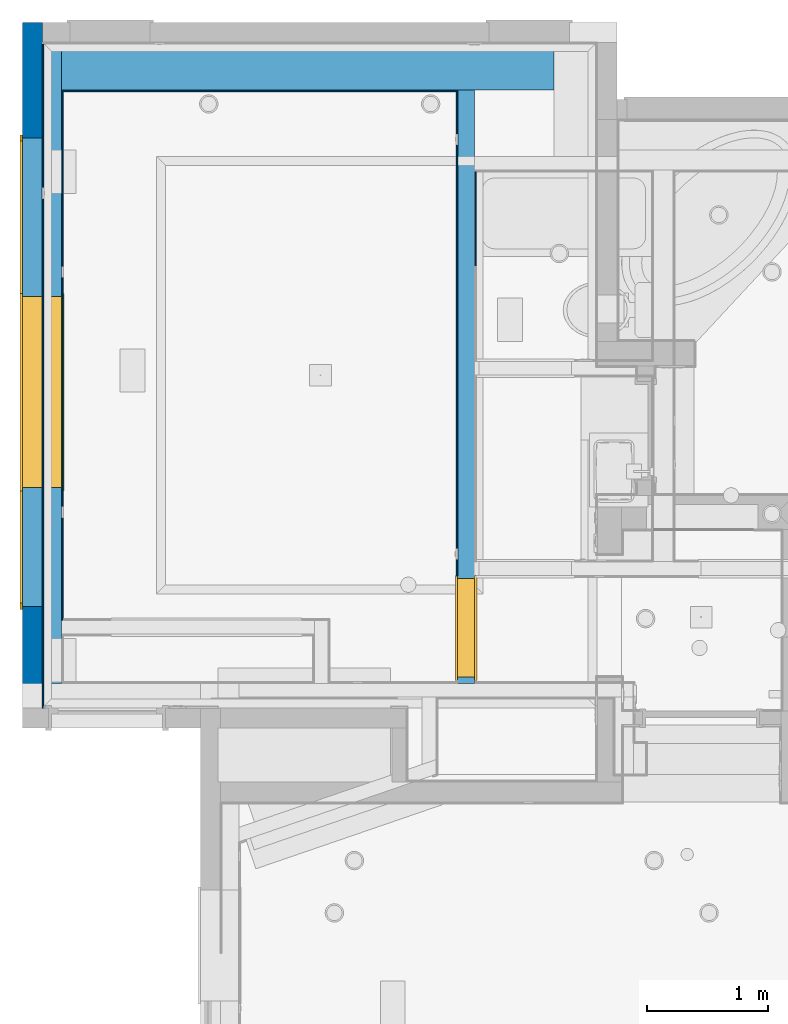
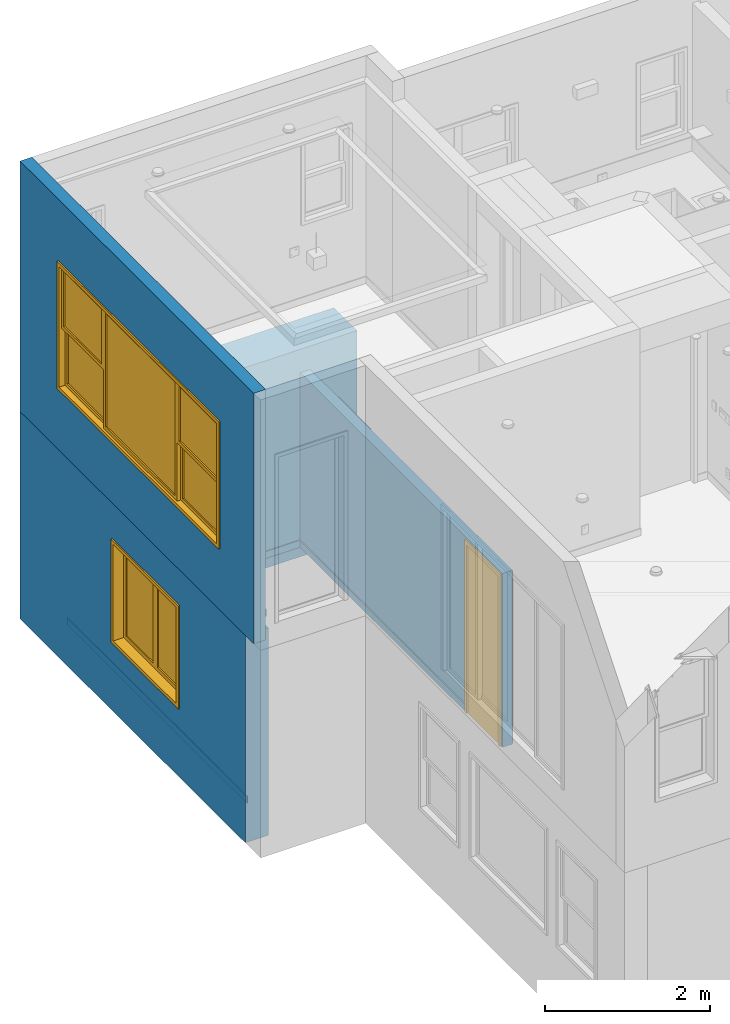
# One storey, part 9 of 60: 9 walls, 2 windows, 1 door, 3 openings.
"""IFC2X3 building model written with IfcOpenShell, lengths in feet."""

from ifc_helpers import new_model, entity, si_unit, converted_unit, direction, frame, frame_2d, origin, origin_2d_with_axis, place, context, subcontext, project, spatial, polyline, rectangle, outline, extrude, clip, bounded_halfspace, source, transform, mapped, material, material_list, layer, layer_set, layer_usage, type_object, type_shapes, element, fill, save


model = new_model("IFC2X3")

# Units and contexts
model_context = context("Model", 3, precision=0.0001, world=origin(), true_north=direction((6.123031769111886e-17, 1.0)))
plan_context = context("Plan", 3, precision=0.0001, world=origin(), true_north=direction((6.123031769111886e-17, 1.0)))
body_context = subcontext(model_context, "Body", "Model", "MODEL_VIEW")
ifc_project = project(units=[converted_unit("LENGTHUNIT", "FOOT", entity("IfcLengthMeasure", 0.3048), si_unit("LENGTHUNIT", "METRE"), dimensions=[1, 0, 0, 0, 0, 0, 0]), converted_unit("AREAUNIT", "SQUARE FOOT", entity("IfcAreaMeasure", 0.09290304), si_unit("AREAUNIT", "SQUARE_METRE"), dimensions=[2, 0, 0, 0, 0, 0, 0]), converted_unit("PLANEANGLEUNIT", "DEGREE", entity("IfcPlaneAngleMeasure", 0.017453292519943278), si_unit("PLANEANGLEUNIT", "RADIAN"), dimensions=[0, 0, 0, 0, 0, 0, 0])], contexts=[model_context, plan_context])

# Site, building, storey
site_placement = place(None, origin())
site = spatial("IfcSite", under=ifc_project, at=site_placement, Name="Default", CompositionType="ELEMENT")
building_placement = place(site_placement, origin())
building = spatial("IfcBuilding", under=site, at=building_placement, CompositionType="ELEMENT")
storey_placement = place(building_placement, origin())
storey = spatial("IfcBuildingStorey", under=building, at=storey_placement, Name="First floor", CompositionType="ELEMENT", Elevation=0.0)

# Wall, opening, window
ifc_material_1 = material(Name="Default New Material")
ifc_layer_1 = layer(ifc_material_1, 0.5416666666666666)
ifc_layer_set_1 = layer_set([ifc_layer_1], Name="Basic Wall:Wall_6.5\"")
ifc_layer_usage_1 = layer_usage(ifc_layer_set_1, "AXIS2", "NEGATIVE", 0.2708333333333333)
wall_type_1 = type_object("IfcWallType", Name="Basic Wall:Wall_6.5\"", PredefinedType="STANDARD", material=ifc_layer_set_1)
wall_1_placement = place(storey_placement, frame((-21.58333333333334, 31.58333333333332, 9.541666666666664), z_axis=(0.0, 0.0, 1.0), x_axis=(0.0, 1.0, 0.0)))
wall_1 = element("IfcWallStandardCase", 1, at=wall_1_placement, inside=storey, type_object=wall_type_1, material=ifc_layer_usage_1, Name="Basic Wall:Wall_6.5\"", ObjectType="Basic Wall:Wall_6.5\"", context=body_context, shape_type="SweptSolid", body=[
    extrude(rectangle(XDim=18.541666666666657, YDim=0.5416666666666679, at=frame_2d((9.27083333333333, -1.3600232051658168e-15), x_axis=(-1.0, 0.0))), origin(), (0.0, 0.0, 1.0), 12.125),
])
opening_1_placement = place(wall_1_placement, frame((15.416666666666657, 0.2708333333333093, 3.0624999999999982)))
opening_1 = element("IfcOpeningElement", 2, at=opening_1_placement, cuts=wall_1, Name="C_Atypical Window 6:12'-6\" X 5'-10\":1", ObjectType="Opening", context=body_context, shape_type="SweptSolid", body=[
    extrude(rectangle(XDim=12.666666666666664, YDim=6.000000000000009, at=frame_2d((3.0000000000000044, 6.333333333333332), x_axis=(0.0, 1.0))), frame((0.0, 0.0, 0.0), z_axis=(0.0, -1.0, 0.0), x_axis=(0.0, 0.0, 1.0)), (0.0, 0.0, 1.0), 0.5416666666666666),
])
ifc_material_2 = material(Name="Glass")
ifc_material_list = material_list([ifc_material_1, ifc_material_2])
window_style_1 = type_object("IfcWindowStyle", Name="C_Atypical Window 6:12'-6\" X 5'-10\"", ConstructionType="NOTDEFINED", OperationType="NOTDEFINED", ParameterTakesPrecedence=False, Sizeable=False, material=ifc_material_list)
shared_shape_1 = source(origin(), body_context, "Body", "SweptSolid", [
    extrude(outline(polyline([(-1.666666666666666, -1.5), (1.666666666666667, -1.5), (1.666666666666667, 1.5), (-1.666666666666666, 1.5), (-1.666666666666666, -1.5)]), holes=[polyline([(-1.5000000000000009, -1.3333333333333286), (-1.5000000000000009, 1.3333333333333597), (1.4999999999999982, 1.3333333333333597), (1.4999999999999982, -1.3333333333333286), (-1.5000000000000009, -1.3333333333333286)])]), frame((1.7500000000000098, 0.5, 4.416666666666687), z_axis=(0.0, -1.0, 0.0), x_axis=(-1.0, 0.0, 0.0)), (0.0, 0.0, 1.0), 0.1666666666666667),
    extrude(rectangle(XDim=2.9999999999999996, YDim=0.041666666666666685, at=frame_2d((-4.440892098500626e-16, 0.0), x_axis=(1.0, 0.0))), frame((1.7500000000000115, 0.41666666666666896, 4.8402777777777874)), (0.0, 0.0, 1.0), 0.04166666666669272),
    extrude(rectangle(XDim=2.999999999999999, YDim=0.041666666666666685, at=frame_2d((-4.440892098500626e-16, 0.0), x_axis=(1.0, 0.0))), frame((1.7500000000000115, 0.41666666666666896, 3.95138888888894)), (0.0, 0.0, 1.0), 0.04166666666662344),
    extrude(rectangle(XDim=0.041666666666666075, YDim=0.041666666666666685, at=origin_2d_with_axis()), frame((2.2500000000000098, 0.41666666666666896, 3.0833333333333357)), (0.0, 0.0, 1.0), 2.666666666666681),
    extrude(rectangle(XDim=0.04166666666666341, YDim=0.041666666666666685, at=frame_2d((-4.440892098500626e-16, 0.0), x_axis=(1.0, 0.0))), frame((1.2500000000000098, 0.41666666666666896, 3.0833333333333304)), (0.0, 0.0, 1.0), 2.6666666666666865),
    extrude(rectangle(XDim=2.9999999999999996, YDim=0.041666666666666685, at=frame_2d((-4.440892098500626e-16, 0.0), x_axis=(1.0, 0.0))), frame((1.7500000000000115, 0.41666666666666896, 3.083333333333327)), (0.0, 0.0, 1.0), 2.666666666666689),
    extrude(rectangle(XDim=0.04166666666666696, YDim=0.04166666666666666, at=frame_2d((-4.440892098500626e-16, 0.0), x_axis=(1.0, 0.0))), frame((2.2500000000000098, 0.2500000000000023, 0.25000000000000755)), (0.0, 0.0, 1.0), 2.666666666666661),
    extrude(rectangle(XDim=0.041666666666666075, YDim=0.04166666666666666, at=origin_2d_with_axis()), frame((1.2500000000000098, 0.2500000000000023, 0.25000000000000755)), (0.0, 0.0, 1.0), 2.666666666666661),
    extrude(rectangle(XDim=2.9999999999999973, YDim=0.04166666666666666, at=frame_2d((4.440892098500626e-16, 0.0), x_axis=(1.0, 0.0))), frame((1.7500000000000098, 0.25, 0.25000000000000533)), (0.0, 0.0, 1.0), 2.6666666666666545),
    extrude(outline(polyline([(-1.5000000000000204, -1.666666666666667), (1.5000000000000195, -1.666666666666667), (1.5000000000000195, 1.666666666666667), (-1.5000000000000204, 1.666666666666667), (-1.5000000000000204, -1.666666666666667)]), holes=[polyline([(-1.3333333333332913, 1.5), (1.3333333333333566, 1.4999999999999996), (1.3333333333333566, -1.5000000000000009), (-1.3333333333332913, -1.5), (-1.3333333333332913, 1.5)])]), frame((1.7500000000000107, 0.33333333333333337, 1.5833333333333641), z_axis=(0.0, -1.0, 0.0), x_axis=(0.0, 0.0, -1.0)), (0.0, 0.0, 1.0), 0.16666666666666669),
    extrude(rectangle(XDim=2.999999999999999, YDim=0.04166666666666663, at=frame_2d((4.440892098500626e-16, 0.0), x_axis=(1.0, 0.0))), frame((1.7500000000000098, 0.25, 2.006944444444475)), (0.0, 0.0, 1.0), 0.04166666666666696),
    extrude(rectangle(XDim=3.0, YDim=0.04166666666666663, at=origin_2d_with_axis()), frame((1.7500000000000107, 0.25, 1.1180555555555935)), (0.0, 0.0, 1.0), 0.041666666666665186),
    extrude(outline(polyline([(-1.666666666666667, -1.5), (1.666666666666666, -1.5), (1.666666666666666, 1.5), (-1.666666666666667, 1.5), (-1.666666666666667, -1.5)]), holes=[polyline([(-1.5000000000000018, -1.3333333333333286), (-1.5000000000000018, 1.3333333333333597), (1.4999999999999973, 1.3333333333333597), (1.4999999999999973, -1.3333333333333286), (-1.5000000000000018, -1.3333333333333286)])]), frame((10.916666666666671, 0.5, 4.416666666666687), z_axis=(0.0, -1.0, 0.0), x_axis=(-1.0, 0.0, 0.0)), (0.0, 0.0, 1.0), 0.1666666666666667),
    extrude(rectangle(XDim=2.999999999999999, YDim=0.041666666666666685, at=frame_2d((4.440892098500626e-16, 0.0), x_axis=(1.0, 0.0))), frame((10.916666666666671, 0.41666666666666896, 4.8402777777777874)), (0.0, 0.0, 1.0), 0.04166666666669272),
    extrude(rectangle(XDim=2.999999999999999, YDim=0.041666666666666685, at=frame_2d((4.440892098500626e-16, 0.0), x_axis=(1.0, 0.0))), frame((10.916666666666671, 0.41666666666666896, 3.95138888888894)), (0.0, 0.0, 1.0), 0.04166666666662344),
    extrude(rectangle(XDim=0.041666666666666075, YDim=0.041666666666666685, at=frame_2d((8.881784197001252e-16, 0.0), x_axis=(1.0, 0.0))), frame((11.416666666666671, 0.41666666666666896, 3.0833333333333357)), (0.0, 0.0, 1.0), 2.666666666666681),
    extrude(rectangle(XDim=0.04166666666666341, YDim=0.041666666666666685, at=frame_2d((4.440892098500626e-16, 0.0), x_axis=(1.0, 0.0))), frame((10.416666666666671, 0.41666666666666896, 3.0833333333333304)), (0.0, 0.0, 1.0), 2.6666666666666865),
    extrude(rectangle(XDim=2.999999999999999, YDim=0.041666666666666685, at=frame_2d((4.440892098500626e-16, 0.0), x_axis=(1.0, 0.0))), frame((10.916666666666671, 0.41666666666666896, 3.083333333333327)), (0.0, 0.0, 1.0), 2.666666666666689),
    extrude(rectangle(XDim=0.04166666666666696, YDim=0.04166666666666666, at=frame_2d((4.440892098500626e-16, 0.0), x_axis=(1.0, 0.0))), frame((11.416666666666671, 0.2500000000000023, 0.25000000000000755)), (0.0, 0.0, 1.0), 2.666666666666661),
    extrude(rectangle(XDim=0.041666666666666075, YDim=0.04166666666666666, at=frame_2d((-4.440892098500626e-16, 0.0), x_axis=(1.0, 0.0))), frame((10.416666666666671, 0.2500000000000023, 0.25000000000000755)), (0.0, 0.0, 1.0), 2.666666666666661),
    extrude(rectangle(XDim=2.9999999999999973, YDim=0.04166666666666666, at=frame_2d((-4.440892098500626e-16, 0.0), x_axis=(1.0, 0.0))), frame((10.916666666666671, 0.25, 0.25000000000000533)), (0.0, 0.0, 1.0), 2.6666666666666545),
    extrude(outline(polyline([(-1.5000000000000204, -1.666666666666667), (1.5000000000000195, -1.666666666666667), (1.5000000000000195, 1.666666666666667), (-1.5000000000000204, 1.666666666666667), (-1.5000000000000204, -1.666666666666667)]), holes=[polyline([(-1.3333333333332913, 1.5), (1.3333333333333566, 1.5), (1.3333333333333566, -1.5000000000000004), (-1.3333333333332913, -1.5), (-1.3333333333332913, 1.5)])]), frame((10.916666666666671, 0.33333333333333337, 1.5833333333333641), z_axis=(0.0, -1.0, 0.0), x_axis=(0.0, 0.0, -1.0)), (0.0, 0.0, 1.0), 0.16666666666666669),
    extrude(rectangle(XDim=2.999999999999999, YDim=0.04166666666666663, at=frame_2d((-4.440892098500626e-16, 0.0), x_axis=(1.0, 0.0))), frame((10.916666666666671, 0.25, 2.006944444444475)), (0.0, 0.0, 1.0), 0.04166666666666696),
    extrude(rectangle(XDim=3.0, YDim=0.04166666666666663, at=origin_2d_with_axis()), frame((10.916666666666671, 0.25, 1.1180555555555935)), (0.0, 0.0, 1.0), 0.041666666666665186),
    extrude(rectangle(XDim=0.04166666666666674, YDim=0.04166666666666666, at=frame_2d((1.1102230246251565e-16, -1.3877787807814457e-17), x_axis=(1.0, 0.0))), frame((5.416666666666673, 0.41666666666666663, 0.25000000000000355)), (0.0, 0.0, 1.0), 5.500000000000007),
    extrude(rectangle(XDim=0.04166666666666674, YDim=0.04166666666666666, at=frame_2d((1.1102230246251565e-16, -1.3877787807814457e-17), x_axis=(1.0, 0.0))), frame((7.250000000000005, 0.41666666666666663, 0.25000000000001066)), (0.0, 0.0, 1.0), 5.500000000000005),
    extrude(outline(polyline([(-2.916666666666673, -2.9166666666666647), (2.9166666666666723, -2.9166666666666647), (2.9166666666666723, 2.9166666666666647), (-2.916666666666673, 2.9166666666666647), (-2.916666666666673, -2.9166666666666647)]), holes=[polyline([(-2.750000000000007, 2.749999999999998), (2.7500000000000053, 2.749999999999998), (2.7500000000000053, -2.7499999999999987), (-2.750000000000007, -2.7499999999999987), (-2.750000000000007, 2.749999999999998)])]), frame((6.333333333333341, 0.5, 3.0), z_axis=(0.0, -1.0, 0.0), x_axis=(0.0, 0.0, -1.0)), (0.0, 0.0, 1.0), 0.1666666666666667),
    extrude(rectangle(XDim=5.4999999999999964, YDim=0.04166666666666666, at=frame_2d((0.0, -1.3877787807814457e-17), x_axis=(1.0, 0.0))), frame((6.33333333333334, 0.41666666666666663, 0.2500000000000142)), (0.0, 0.0, 1.0), 5.500000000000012),
    extrude(rectangle(XDim=5.4999999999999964, YDim=0.04166666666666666, at=frame_2d((0.0, -1.3877787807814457e-17), x_axis=(1.0, 0.0))), frame((6.33333333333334, 0.41666666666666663, 2.0625000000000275)), (0.0, 0.0, 1.0), 0.041666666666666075),
    extrude(rectangle(XDim=5.4999999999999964, YDim=0.04166666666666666, at=frame_2d((0.0, -1.3877787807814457e-17), x_axis=(1.0, 0.0))), frame((6.33333333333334, 0.41666666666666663, 3.8958333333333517)), (0.0, 0.0, 1.0), 0.041666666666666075),
    extrude(outline(polyline([(-6.416666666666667, -3.083333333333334), (6.416666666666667, -3.083333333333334), (6.416666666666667, 3.083333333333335), (-6.416666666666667, 3.083333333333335), (-6.416666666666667, -3.083333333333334)]), holes=[polyline([(-6.250000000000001, -2.9166666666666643), (-6.250000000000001, 2.916666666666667), (6.249999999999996, 2.916666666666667), (6.249999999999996, -2.9166666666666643), (-6.250000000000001, -2.9166666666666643)])]), frame((6.3333333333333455, 0.0, 3.0), z_axis=(0.0, -1.0, 0.0), x_axis=(-1.0, 0.0, 0.0)), (0.0, 0.0, 1.0), 0.0625),
    extrude(outline(polyline([(-6.416666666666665, -3.083333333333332), (6.416666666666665, -3.083333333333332), (6.416666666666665, 3.083333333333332), (-6.416666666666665, 3.083333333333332), (-6.416666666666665, -3.083333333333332)]), holes=[polyline([(-6.250000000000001, -2.916666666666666), (-6.250000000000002, 2.916666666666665), (6.249999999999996, 2.916666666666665), (6.249999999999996, -2.916666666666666), (-6.250000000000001, -2.916666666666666)])]), frame((6.333333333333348, 0.6041666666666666, 3.0), z_axis=(0.0, -1.0, 0.0), x_axis=(-1.0, 0.0, 0.0)), (0.0, 0.0, 1.0), 0.0625),
    extrude(outline(polyline([(-3.0, -6.3333333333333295), (3.0, -6.3333333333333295), (3.0, 6.333333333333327), (-3.0, 6.333333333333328), (-3.0, -6.3333333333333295)]), holes=[polyline([(-2.9166666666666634, 6.249999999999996), (2.9166666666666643, 6.249999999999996), (2.916666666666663, -6.249999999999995), (-2.9166666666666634, -6.249999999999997), (-2.9166666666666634, 6.249999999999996)])]), frame((6.333333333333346, 0.5416666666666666, 3.0), z_axis=(0.0, -1.0, 0.0), x_axis=(0.0, 0.0, -1.0)), (0.0, 0.0, 1.0), 0.5416666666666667),
])
type_shapes(window_style_1, [shared_shape_1])
window_1_placement = place(opening_1_placement, frame((-12.666666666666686, -0.5416666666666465, 0.0)))
window_1 = element("IfcWindow", 3, at=window_1_placement, inside=storey, type_object=window_style_1, material=ifc_material_list, Name="C_Atypical Window 6:12'-6\" X 5'-10\"", ObjectType="C_Atypical Window 6:12'-6\" X 5'-10\"", OverallHeight=6.000000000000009, OverallWidth=12.666666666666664, context=body_context, shape_type="MappedRepresentation", body=[
    mapped(shared_shape_1, transform((0.0, 0.0, 0.0), scale=1.0)),
])
fill(opening_1, window_1)

# Wall, opening, door
ifc_layer_2 = layer(ifc_material_1, 0.45833333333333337)
ifc_layer_set_2 = layer_set([ifc_layer_2], Name="Basic Wall:Wall_5.5\"")
ifc_layer_usage_2 = layer_usage(ifc_layer_set_2, "AXIS2", "NEGATIVE", 0.22916666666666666)
wall_type_2 = type_object("IfcWallType", Name="Basic Wall:Wall_5.5\"", PredefinedType="STANDARD", material=ifc_layer_set_2)
wall_2_placement = place(storey_placement, frame((-9.8541666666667, 48.29166666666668, 0.0), z_axis=(0.0, 0.0, 1.0), x_axis=(0.0, -1.0, 0.0)))
wall_2 = element("IfcWallStandardCase", 4, at=wall_2_placement, inside=storey, type_object=wall_type_2, material=ifc_layer_usage_2, Name="Basic Wall:Wall_5.5\"", ObjectType="Basic Wall:Wall_5.5\"", context=body_context, shape_type="SweptSolid", body=[
    extrude(rectangle(XDim=16.04166666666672, YDim=0.4583333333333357, at=frame_2d((8.02083333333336, -1.8735013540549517e-15), x_axis=(1.0, 0.0))), origin(), (0.0, 0.0, 1.0), 8.416666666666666),
])
opening_2_placement = place(wall_2_placement, frame((15.875000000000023, 0.22916666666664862, 0.0)))
opening_2 = element("IfcOpeningElement", 5, at=opening_2_placement, cuts=wall_2, Name="C_Single Door:2'-6\" X 8'-2\":1", ObjectType="Opening", context=body_context, shape_type="SweptSolid", body=[
    extrude(rectangle(XDim=2.666666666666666, YDim=8.25, at=frame_2d((4.125, 1.333333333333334), x_axis=(0.0, 1.0))), frame((0.0, 0.0, 0.0), z_axis=(0.0, -1.0, 0.0), x_axis=(0.0, 0.0, 1.0)), (0.0, 0.0, 1.0), 0.4583333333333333),
])
door_style = type_object("IfcDoorStyle", Name="C_Single Door:2'-6\" X 8'-2\"", ConstructionType="NOTDEFINED", OperationType="SINGLE_SWING_RIGHT", ParameterTakesPrecedence=False, Sizeable=False, material=ifc_material_1)
shared_shape_2 = source(origin(), body_context, "Body", "SweptSolid", [
    extrude(rectangle(XDim=2.499999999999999, YDim=0.16666666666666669, at=origin_2d_with_axis()), frame((1.3333333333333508, 0.08333333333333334, 0.0)), (0.0, 0.0, 1.0), 8.166666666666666),
    extrude(outline(polyline([(-4.041666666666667, 1.2499999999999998), (4.125000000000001, 1.2499999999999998), (4.125000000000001, 1.4166666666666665), (-4.208333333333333, 1.4166666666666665), (-4.208333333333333, -1.4166666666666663), (4.124999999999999, -1.4166666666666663), (4.124999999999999, -1.2499999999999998), (-4.041666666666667, -1.2499999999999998), (-4.041666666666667, 1.2499999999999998)])), frame((1.33333333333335, 0.0, 4.124999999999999), z_axis=(0.0, -1.0, 0.0), x_axis=(0.0, 0.0, -1.0)), (0.0, 0.0, 1.0), 0.06249999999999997),
    extrude(outline(polyline([(-4.041666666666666, 1.2499999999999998), (4.125, 1.2499999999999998), (4.125, 1.4166666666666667), (-4.208333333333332, 1.4166666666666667), (-4.208333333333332, -1.4166666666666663), (4.125, -1.4166666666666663), (4.125, -1.2500000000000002), (-4.041666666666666, -1.2500000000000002), (-4.041666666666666, 1.2499999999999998)])), frame((1.3333333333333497, 0.5208333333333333, 4.125), z_axis=(0.0, -1.0, 0.0), x_axis=(0.0, 0.0, -1.0)), (0.0, 0.0, 1.0), 0.06249999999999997),
    extrude(outline(polyline([(1.2499999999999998, -4.104166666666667), (1.3333333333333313, -4.104166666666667), (1.3333333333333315, 4.145833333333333), (-1.3333333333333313, 4.145833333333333), (-1.3333333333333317, -4.104166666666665), (-1.25, -4.104166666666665), (-1.2499999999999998, 4.062500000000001), (1.2499999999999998, 4.062500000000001), (1.2499999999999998, -4.104166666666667)])), frame((1.33333333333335, 0.45833333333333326, 4.104166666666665), z_axis=(0.0, -1.0, 0.0), x_axis=(1.0, 0.0, 0.0)), (0.0, 0.0, 1.0), 0.45833333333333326),
])
type_shapes(door_style, [shared_shape_2])
door_placement = place(opening_2_placement, frame((-2.6666666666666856, -0.4583333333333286, 0.0)))
door = element("IfcDoor", 6, at=door_placement, inside=storey, type_object=door_style, material=ifc_material_1, Name="C_Single Door:2'-6\" X 8'-2\"", ObjectType="C_Single Door:2'-6\" X 8'-2\"", OverallHeight=8.25, OverallWidth=2.6666666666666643, context=body_context, shape_type="MappedRepresentation", body=[
    mapped(shared_shape_2, transform((0.0, 0.0, 0.0), scale=1.0)),
])
fill(opening_2, door)

# Wall, opening, window
ifc_layer_3 = layer(ifc_material_1, 1.0625)
ifc_layer_set_3 = layer_set([ifc_layer_3], Name="Basic Wall:Wall_1' 3/4\"")
ifc_layer_usage_3 = layer_usage(ifc_layer_set_3, "AXIS2", "NEGATIVE", 0.53125)
wall_type_3 = type_object("IfcWallType", Name="Basic Wall:Wall_1' 3/4\"", PredefinedType="STANDARD", material=ifc_layer_set_3)
wall_3_placement = place(storey_placement, frame((-21.322916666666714, 32.24999999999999, -0.5), z_axis=(0.0, 0.0, 1.0), x_axis=(0.0, 1.0, 0.0)))
wall_3 = element("IfcWallStandardCase", 7, at=wall_3_placement, inside=storey, type_object=wall_type_3, material=ifc_layer_usage_3, Name="Basic Wall:Wall_1' 3/4\"", ObjectType="Basic Wall:Wall_1' 3/4\"", context=body_context, shape_type="SweptSolid", body=[
    extrude(rectangle(XDim=17.87500000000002, YDim=1.0625, at=frame_2d((8.93750000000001, -1.6653345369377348e-16), x_axis=(-1.0, 0.0))), origin(), (0.0, 0.0, 1.0), 10.041666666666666),
])
opening_3_placement = place(wall_3_placement, frame((10.458333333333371, 0.5312499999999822, 3.4166666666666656)))
opening_3 = element("IfcOpeningElement", 8, at=opening_3_placement, cuts=wall_3, Name="C_Double Window:5'-0\" X 4'-8\":1", ObjectType="Opening", context=body_context, shape_type="SweptSolid", body=[
    extrude(rectangle(XDim=5.166666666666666, YDim=4.833333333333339, at=frame_2d((2.4166666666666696, 2.5833333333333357), x_axis=(0.0, 1.0))), frame((0.0, 0.0, 0.0), z_axis=(0.0, -1.0, 0.0), x_axis=(0.0, 0.0, 1.0)), (0.0, 0.0, 1.0), 1.0625),
])
window_style_2 = type_object("IfcWindowStyle", Name="C_Double Window:5'-0\" X 4'-8\"", ConstructionType="NOTDEFINED", OperationType="NOTDEFINED", ParameterTakesPrecedence=False, Sizeable=False, material=ifc_material_list)
shared_shape_3 = source(origin(), body_context, "Body", "SweptSolid", [
    extrude(outline(polyline([(-1.2500000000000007, -2.333333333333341), (1.2500000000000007, -2.333333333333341), (1.2500000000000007, 2.333333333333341), (-1.2500000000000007, 2.333333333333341), (-1.2500000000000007, -2.333333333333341)]), holes=[polyline([(1.0833333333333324, -2.166666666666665), (-1.0833333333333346, -2.1666666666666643), (-1.0833333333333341, 2.166666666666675), (1.0833333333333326, 2.166666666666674), (1.0833333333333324, -2.166666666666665)])]), frame((1.3333333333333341, 0.4166666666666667, 2.4166666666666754), z_axis=(0.0, 1.0, 0.0), x_axis=(1.0, 0.0, 0.0)), (0.0, 0.0, 1.0), 0.16666666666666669),
    extrude(rectangle(XDim=0.04166666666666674, YDim=0.04166666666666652, at=frame_2d((-1.1102230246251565e-16, 0.0), x_axis=(1.0, 0.0))), frame((0.9722222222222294, 0.5000000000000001, 0.25000000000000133), z_axis=(0.0, 0.0, 1.0), x_axis=(-1.0, 0.0, 0.0)), (0.0, 0.0, 1.0), 4.333333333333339),
    extrude(rectangle(XDim=0.04166666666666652, YDim=0.04166666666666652, at=origin_2d_with_axis()), frame((1.6944444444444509, 0.5000000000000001, 0.25000000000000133), z_axis=(0.0, 0.0, 1.0), x_axis=(-1.0, 0.0, 0.0)), (0.0, 0.0, 1.0), 4.333333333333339),
    extrude(rectangle(XDim=2.1666666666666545, YDim=0.04166666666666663, at=origin_2d_with_axis()), frame((1.3333333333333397, 0.5, 1.6736111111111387)), (0.0, 0.0, 1.0), 0.041666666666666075),
    extrude(rectangle(XDim=2.166666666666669, YDim=0.04166666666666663, at=origin_2d_with_axis()), frame((1.3333333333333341, 0.5, 3.1180555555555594)), (0.0, 0.0, 1.0), 0.041666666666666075),
    extrude(rectangle(XDim=2.166666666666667, YDim=0.04166666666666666, at=frame_2d((1.1102230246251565e-16, 0.0), x_axis=(1.0, 0.0))), frame((1.333333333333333, 0.5, 0.25000000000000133)), (0.0, 0.0, 1.0), 4.333333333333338),
    extrude(outline(polyline([(-1.2500000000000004, -2.333333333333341), (1.2500000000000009, -2.333333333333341), (1.2500000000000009, 2.333333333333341), (-1.2500000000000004, 2.333333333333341), (-1.2500000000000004, -2.333333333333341)]), holes=[polyline([(1.0833333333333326, -2.166666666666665), (-1.0833333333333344, -2.1666666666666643), (-1.083333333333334, 2.166666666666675), (1.083333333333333, 2.166666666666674), (1.0833333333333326, -2.166666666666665)])]), frame((3.8333333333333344, 0.4166666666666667, 2.4166666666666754), z_axis=(0.0, 1.0, 0.0), x_axis=(1.0, 0.0, 0.0)), (0.0, 0.0, 1.0), 0.16666666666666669),
    extrude(rectangle(XDim=0.04166666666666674, YDim=0.04166666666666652, at=origin_2d_with_axis()), frame((3.47222222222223, 0.5000000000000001, 0.25000000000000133), z_axis=(0.0, 0.0, 1.0), x_axis=(-1.0, 0.0, 0.0)), (0.0, 0.0, 1.0), 4.333333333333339),
    extrude(rectangle(XDim=0.04166666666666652, YDim=0.04166666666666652, at=origin_2d_with_axis()), frame((4.194444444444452, 0.5000000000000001, 0.25000000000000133), z_axis=(0.0, 0.0, 1.0), x_axis=(-1.0, 0.0, 0.0)), (0.0, 0.0, 1.0), 4.333333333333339),
    extrude(rectangle(XDim=2.1666666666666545, YDim=0.04166666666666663, at=origin_2d_with_axis()), frame((3.83333333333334, 0.5, 1.6736111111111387)), (0.0, 0.0, 1.0), 0.041666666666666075),
    extrude(rectangle(XDim=2.166666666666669, YDim=0.04166666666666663, at=frame_2d((2.220446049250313e-16, 0.0), x_axis=(1.0, 0.0))), frame((3.8333333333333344, 0.5, 3.1180555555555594)), (0.0, 0.0, 1.0), 0.041666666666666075),
    extrude(rectangle(XDim=2.1666666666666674, YDim=0.04166666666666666, at=frame_2d((2.220446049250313e-16, 0.0), x_axis=(1.0, 0.0))), frame((3.8333333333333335, 0.5, 0.25000000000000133)), (0.0, 0.0, 1.0), 4.333333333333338),
    extrude(outline(polyline([(-2.6666666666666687, -2.5000000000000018), (2.6666666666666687, -2.5000000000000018), (2.6666666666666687, 2.5), (-2.6666666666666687, 2.5), (-2.6666666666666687, -2.5000000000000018)]), holes=[polyline([(-2.500000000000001, -2.333333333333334), (-2.500000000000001, 2.3333333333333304), (2.4999999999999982, 2.3333333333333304), (2.4999999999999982, -2.333333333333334), (-2.500000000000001, -2.333333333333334)])]), frame((2.583333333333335, -0.0625, 2.4166666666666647), z_axis=(0.0, 1.0, 0.0), x_axis=(1.0, 0.0, 0.0)), (0.0, 0.0, 1.0), 0.0625),
    extrude(outline(polyline([(-2.666666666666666, -2.4999999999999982), (2.666666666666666, -2.4999999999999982), (2.666666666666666, 2.4999999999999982), (-2.666666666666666, 2.4999999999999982), (-2.666666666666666, -2.4999999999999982)]), holes=[polyline([(-2.5000000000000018, -2.333333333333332), (-2.5000000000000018, 2.333333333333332), (2.4999999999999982, 2.333333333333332), (2.4999999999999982, -2.333333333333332), (-2.5000000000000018, -2.333333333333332)])]), frame((2.583333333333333, 1.0625, 2.4166666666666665), z_axis=(0.0, 1.0, 0.0), x_axis=(1.0, 0.0, 0.0)), (0.0, 0.0, 1.0), 0.0625),
    extrude(outline(polyline([(-2.583333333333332, -2.4166666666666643), (2.583333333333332, -2.4166666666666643), (2.583333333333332, 2.416666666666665), (-2.583333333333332, 2.416666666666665), (-2.583333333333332, -2.4166666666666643)]), holes=[polyline([(2.4999999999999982, -2.3333333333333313), (-2.4999999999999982, -2.3333333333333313), (-2.499999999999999, 2.3333333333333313), (2.4999999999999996, 2.333333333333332), (2.4999999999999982, -2.3333333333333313)])]), frame((2.5833333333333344, 0.0, 2.4166666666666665), z_axis=(0.0, 1.0, 0.0), x_axis=(1.0, 0.0, 0.0)), (0.0, 0.0, 1.0), 1.0625),
])
type_shapes(window_style_2, [shared_shape_3])
window_2_placement = place(opening_3_placement, frame((0.0, 0.0, 0.0), z_axis=(0.0, 0.0, 1.0), x_axis=(-1.0, 0.0, 0.0)))
window_2 = element("IfcWindow", 9, at=window_2_placement, inside=storey, type_object=window_style_2, material=ifc_material_list, Name="C_Double Window:5'-0\" X 4'-8\"", ObjectType="C_Double Window:5'-0\" X 4'-8\"", OverallHeight=4.833333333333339, OverallWidth=5.166666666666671, context=body_context, shape_type="MappedRepresentation", body=[
    mapped(shared_shape_3, transform((0.0, 0.0, 0.0), scale=1.0)),
])
fill(opening_3, window_2)

# Walls
ifc_layer_4 = layer(ifc_material_1, 1.8333333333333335)
ifc_layer_set_4 = layer_set([ifc_layer_4], Name="Basic Wall:Wall_1' 10\"")
ifc_layer_usage_4 = layer_usage(ifc_layer_set_4, "AXIS2", "POSITIVE", -0.9166666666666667)
wall_type_4 = type_object("IfcWallType", Name="Basic Wall:Wall_1' 10\"", PredefinedType="STANDARD", material=ifc_layer_set_4)
wall_4_placement = place(storey_placement, frame((-7.479166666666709, 49.20833333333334, -0.5), z_axis=(0.0, 0.0, 1.0), x_axis=(-1.0, 0.0, 0.0)))
element("IfcWallStandardCase", 10, at=wall_4_placement, inside=storey, type_object=wall_type_4, material=ifc_layer_usage_4, Name="Basic Wall:Wall_1' 10\"", ObjectType="Basic Wall:Wall_1' 10\"", context=body_context, shape_type="SweptSolid", body=[
    extrude(rectangle(XDim=13.312499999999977, YDim=1.8333333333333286, at=frame_2d((6.6562499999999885, 0.0), x_axis=(-1.0, 0.0))), origin(), (0.0, 0.0, 1.0), 10.041666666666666),
])
ifc_layer_5 = layer(ifc_material_1, 0.041666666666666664)
ifc_layer_set_5 = layer_set([ifc_layer_5], Name="Basic Wall:Wall Border_T1")
ifc_layer_usage_5 = layer_usage(ifc_layer_set_5, "AXIS2", "NEGATIVE", 0.020833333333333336)
wall_type_5 = type_object("IfcWallType", Name="Basic Wall:Wall Border_T1", PredefinedType="STANDARD", material=ifc_layer_set_5)
wall_5_placement = place(storey_placement, frame((-10.125000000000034, 48.27083333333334, 0.0), z_axis=(0.0, 0.0, 1.0), x_axis=(-1.0, 0.0, 0.0)))
element("IfcWallStandardCase", 11, at=wall_5_placement, inside=storey, type_object=wall_type_5, material=ifc_layer_usage_5, Name="Basic Wall:Wall Border_T1", ObjectType="Basic Wall:Wall Border_T1", context=body_context, shape_type="SweptSolid", body=[
    extrude(rectangle(XDim=10.666666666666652, YDim=0.041666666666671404, at=frame_2d((5.333333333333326, -6.938893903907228e-17), x_axis=(-1.0, 0.0))), origin(), (0.0, 0.0, 1.0), 0.3333333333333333),
])
ifc_layer_usage_6 = layer_usage(ifc_layer_set_5, "AXIS2", "POSITIVE", -0.020833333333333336)
wall_6_placement = place(storey_placement, frame((-20.77083333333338, 33.95833333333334, 0.0), z_axis=(0.0, 0.0, 1.0), x_axis=(0.0, 1.0, 0.0)))
element("IfcWallStandardCase", 12, at=wall_6_placement, inside=storey, type_object=wall_type_5, material=ifc_layer_usage_6, Name="Basic Wall:Wall Border_T1", ObjectType="Basic Wall:Wall Border_T1", context=body_context, shape_type="Clipping", body=[
    clip(extrude(rectangle(XDim=14.2916666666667, YDim=0.0416666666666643, at=frame_2d((7.14583333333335, -3.642919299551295e-17), x_axis=(-1.0, 0.0))), origin(), (0.0, 0.0, 1.0), 0.3333333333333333), bounded_halfspace(frame((14.2916666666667, -0.020833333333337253, 0.3333333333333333), z_axis=(-1.0, 0.0, 0.0), x_axis=(0.0, -1.0, 0.0)), True, frame((14.2916666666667, -0.020833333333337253, 0.3333333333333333), z_axis=(-1.0, 0.0, 0.0), x_axis=(0.0, -1.0, 0.0)), polyline([(0.0, 0.0), (-0.04166666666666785, 0.0), (-0.04166666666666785, -0.3333333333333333), (0.0, -0.3333333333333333), (0.0, 0.0)]))),
])
ifc_layer_usage_7 = layer_usage(ifc_layer_set_5, "AXIS2", "POSITIVE", -0.020833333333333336)
wall_7_placement = place(storey_placement, frame((-10.104166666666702, 48.29166666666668, 0.0), z_axis=(0.0, 0.0, 1.0), x_axis=(0.0, -1.0, 0.0)))
element("IfcWallStandardCase", 13, at=wall_7_placement, inside=storey, type_object=wall_type_5, material=ifc_layer_usage_7, Name="Basic Wall:Wall Border_T1", ObjectType="Basic Wall:Wall Border_T1", context=body_context, shape_type="SweptSolid", body=[
    extrude(rectangle(XDim=13.125000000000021, YDim=0.04166666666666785, at=frame_2d((6.562500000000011, 0.0), x_axis=(-1.0, 0.0))), origin(), (0.0, 0.0, 1.0), 0.3333333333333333),
])
ifc_layer_usage_8 = layer_usage(ifc_layer_set_5, "AXIS2", "NEGATIVE", 0.020833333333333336)
wall_8_placement = place(storey_placement, frame((-9.604166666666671, 46.083333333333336, 0.0), z_axis=(0.0, 0.0, 1.0), x_axis=(0.0, -1.0, 0.0)))
element("IfcWallStandardCase", 14, at=wall_8_placement, inside=storey, type_object=wall_type_5, material=ifc_layer_usage_8, Name="Basic Wall:Wall Border_T1", ObjectType="Basic Wall:Wall Border_T1", context=body_context, shape_type="SweptSolid", body=[
    extrude(rectangle(XDim=2.5416666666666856, YDim=0.04166666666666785, at=frame_2d((1.2708333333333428, 2.0816681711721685e-17), x_axis=(-1.0, 0.0))), origin(), (0.0, 0.0, 1.0), 8.416666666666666),
])
ifc_layer_usage_9 = layer_usage(ifc_layer_set_5, "AXIS2", "NEGATIVE", 0.020833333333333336)
wall_9_placement = place(storey_placement, frame((-21.291666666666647, 49.541666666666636, 10.666666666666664), z_axis=(0.0, 0.0, 1.0), x_axis=(0.0, -1.0, 0.0)))
element("IfcWallStandardCase", 15, at=wall_9_placement, inside=storey, type_object=wall_type_5, material=ifc_layer_usage_9, Name="Basic Wall:Wall Border_T1", ObjectType="Basic Wall:Wall Border_T1", context=body_context, shape_type="SweptSolid", body=[
    extrude(rectangle(XDim=17.95833333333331, YDim=0.0416666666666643, at=frame_2d((8.979166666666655, 0.0), x_axis=(-1.0, 0.0))), origin(), (0.0, 0.0, 1.0), 0.3333333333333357),
])

save(model, "model.ifc")
